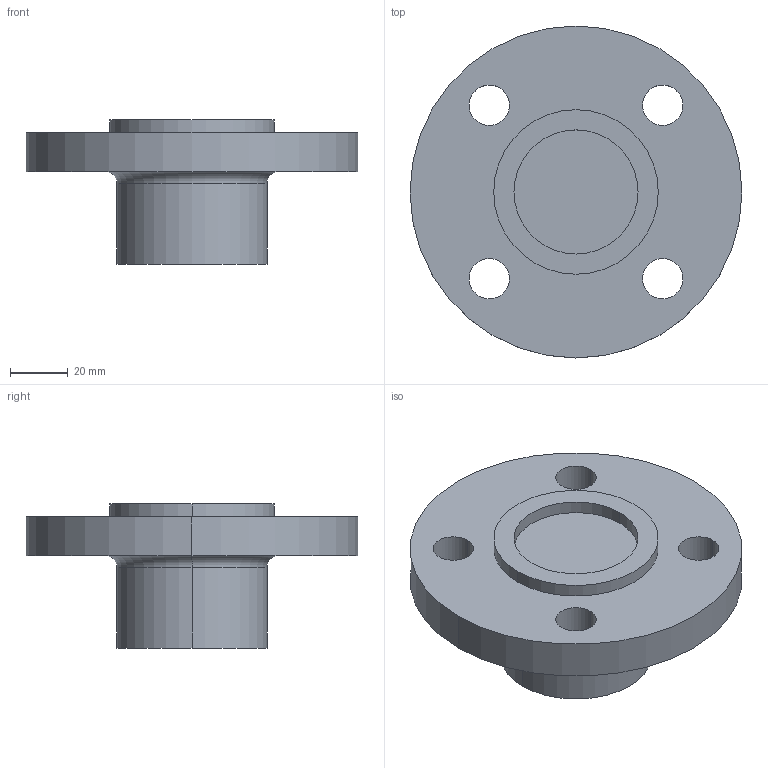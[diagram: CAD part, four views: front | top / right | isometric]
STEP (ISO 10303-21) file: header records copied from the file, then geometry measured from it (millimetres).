
FILE_DESCRIPTION (( 'STEP AP214' ), '1' );
FILE_NAME ('PN40 DN25 Type 21(i) - Type C Face.STEP', '2018-12-29T20:21:12', ( '' ), ( '' ), 'SwSTEP 2.0', 'SolidWorks 2019', '' );
FILE_SCHEMA (( 'AUTOMOTIVE_DESIGN' ));
Length unit declared in the file: millimetre
Products named in the file (1): PN40 DN25 Type 21(i) - Type C Face
Bounding box: 115 x 115 x 50 mm (x, y, z)
Volume: 205397.5 mm3; surface area: 33162.6 mm2
Topology: 1 solids, 1 shells, 23 faces, 52 edges, 34 vertices
Faces by surface type: cylinder 16, plane 5, torus 2
Entity records: 716 total; most frequent: DIRECTION 136, CARTESIAN_POINT 110, ORIENTED_EDGE 104, AXIS2_PLACEMENT_3D 60, EDGE_CURVE 52, CIRCLE 36, VERTEX_POINT 34, EDGE_LOOP 34
